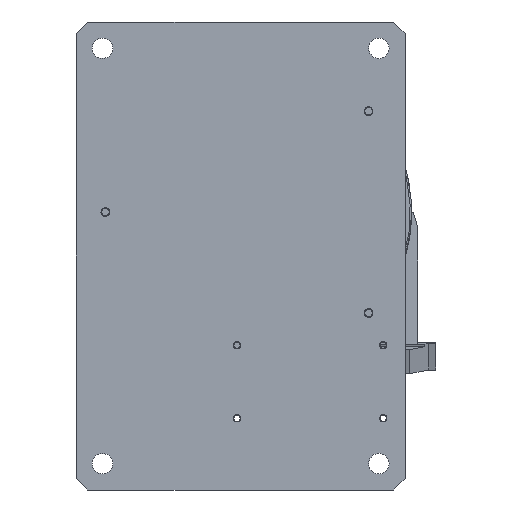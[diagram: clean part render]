
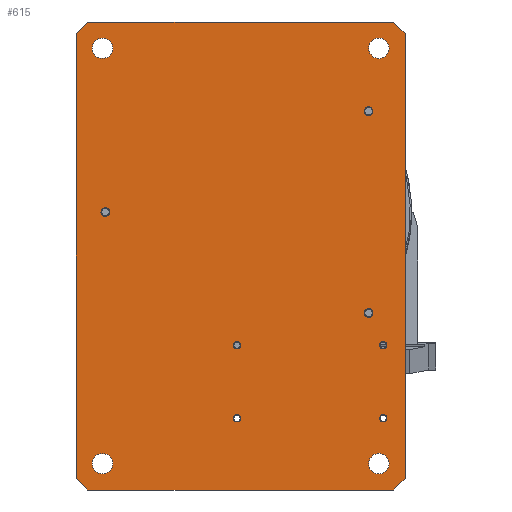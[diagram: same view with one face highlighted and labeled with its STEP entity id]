
A CAD part, front view. The second image highlights one B-rep face of the part: STEP entity #615.
In plain terms, the highlighted planar face has unit normal (0, -1, 0).
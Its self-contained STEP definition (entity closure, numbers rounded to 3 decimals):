
#2=CARTESIAN_POINT('',(-2.5,0.,-61.));
#3=DIRECTION('',(0.,1.,0.));
#4=DIRECTION('',(1.,0.,0.));
#5=AXIS2_PLACEMENT_3D('',#2,#3,#4);
#7=CARTESIAN_POINT('',(-2.5,0.,-61.));
#8=DIRECTION('',(0.,1.,0.));
#9=DIRECTION('',(-1.,0.,0.));
#10=AXIS2_PLACEMENT_3D('',#7,#8,#9);
#12=CARTESIAN_POINT('',(97.5,0.,-61.));
#13=DIRECTION('',(0.,1.,0.));
#14=DIRECTION('',(1.,0.,0.));
#15=AXIS2_PLACEMENT_3D('',#12,#13,#14);
#17=CARTESIAN_POINT('',(97.5,0.,-61.));
#18=DIRECTION('',(0.,1.,0.));
#19=DIRECTION('',(-1.,0.,0.));
#20=AXIS2_PLACEMENT_3D('',#17,#18,#19);
#22=CARTESIAN_POINT('',(-2.5,0.,-111.));
#23=DIRECTION('',(0.,1.,0.));
#24=DIRECTION('',(1.,0.,0.));
#25=AXIS2_PLACEMENT_3D('',#22,#23,#24);
#27=CARTESIAN_POINT('',(-2.5,0.,-111.));
#28=DIRECTION('',(0.,1.,0.));
#29=DIRECTION('',(-1.,0.,0.));
#30=AXIS2_PLACEMENT_3D('',#27,#28,#29);
#32=CARTESIAN_POINT('',(97.5,0.,-111.));
#33=DIRECTION('',(0.,1.,0.));
#34=DIRECTION('',(1.,0.,0.));
#35=AXIS2_PLACEMENT_3D('',#32,#33,#34);
#37=CARTESIAN_POINT('',(97.5,0.,-111.));
#38=DIRECTION('',(0.,1.,0.));
#39=DIRECTION('',(-1.,0.,0.));
#40=AXIS2_PLACEMENT_3D('',#37,#38,#39);
#42=CARTESIAN_POINT('',(-92.5,0.,30.));
#43=DIRECTION('',(0.,1.,0.));
#44=DIRECTION('',(1.,0.,0.));
#45=AXIS2_PLACEMENT_3D('',#42,#43,#44);
#47=CARTESIAN_POINT('',(-92.5,0.,30.));
#48=DIRECTION('',(0.,1.,0.));
#49=DIRECTION('',(-1.,0.,0.));
#50=AXIS2_PLACEMENT_3D('',#47,#48,#49);
#52=CARTESIAN_POINT('',(87.5,0.,99.));
#53=DIRECTION('',(0.,1.,0.));
#54=DIRECTION('',(1.,0.,0.));
#55=AXIS2_PLACEMENT_3D('',#52,#53,#54);
#57=CARTESIAN_POINT('',(87.5,0.,99.));
#58=DIRECTION('',(0.,1.,0.));
#59=DIRECTION('',(-1.,0.,0.));
#60=AXIS2_PLACEMENT_3D('',#57,#58,#59);
#62=CARTESIAN_POINT('',(87.5,0.,-39.));
#63=DIRECTION('',(0.,1.,0.));
#64=DIRECTION('',(1.,0.,0.));
#65=AXIS2_PLACEMENT_3D('',#62,#63,#64);
#67=CARTESIAN_POINT('',(87.5,0.,-39.));
#68=DIRECTION('',(0.,1.,0.));
#69=DIRECTION('',(-1.,0.,0.));
#70=AXIS2_PLACEMENT_3D('',#67,#68,#69);
#72=CARTESIAN_POINT('',(-94.5,0.,142.));
#73=DIRECTION('',(0.,1.,0.));
#74=DIRECTION('',(1.,0.,0.));
#75=AXIS2_PLACEMENT_3D('',#72,#73,#74);
#77=CARTESIAN_POINT('',(-94.5,0.,142.));
#78=DIRECTION('',(0.,1.,0.));
#79=DIRECTION('',(-1.,0.,0.));
#80=AXIS2_PLACEMENT_3D('',#77,#78,#79);
#82=CARTESIAN_POINT('',(94.5,0.,-142.));
#83=DIRECTION('',(0.,1.,0.));
#84=DIRECTION('',(1.,0.,0.));
#85=AXIS2_PLACEMENT_3D('',#82,#83,#84);
#87=CARTESIAN_POINT('',(94.5,0.,-142.));
#88=DIRECTION('',(0.,1.,0.));
#89=DIRECTION('',(-1.,0.,0.));
#90=AXIS2_PLACEMENT_3D('',#87,#88,#89);
#92=CARTESIAN_POINT('',(94.5,0.,142.));
#93=DIRECTION('',(0.,1.,0.));
#94=DIRECTION('',(1.,0.,0.));
#95=AXIS2_PLACEMENT_3D('',#92,#93,#94);
#97=CARTESIAN_POINT('',(94.5,0.,142.));
#98=DIRECTION('',(0.,1.,0.));
#99=DIRECTION('',(-1.,0.,0.));
#100=AXIS2_PLACEMENT_3D('',#97,#98,#99);
#102=CARTESIAN_POINT('',(-94.5,0.,-142.));
#103=DIRECTION('',(0.,1.,0.));
#104=DIRECTION('',(1.,0.,0.));
#105=AXIS2_PLACEMENT_3D('',#102,#103,#104);
#107=CARTESIAN_POINT('',(-94.5,0.,-142.));
#108=DIRECTION('',(0.,1.,0.));
#109=DIRECTION('',(-1.,0.,0.));
#110=AXIS2_PLACEMENT_3D('',#107,#108,#109);
#112=DIRECTION('',(-0.707,0.,-0.707));
#113=VECTOR('',#112,11.314);
#114=CARTESIAN_POINT('',(-104.5,0.,160.));
#115=LINE('',#114,#113);
#116=DIRECTION('',(1.,0.,0.));
#117=VECTOR('',#116,209.);
#118=CARTESIAN_POINT('',(-104.5,0.,160.));
#119=LINE('',#118,#117);
#120=DIRECTION('',(-0.707,0.,0.707));
#121=VECTOR('',#120,11.314);
#122=CARTESIAN_POINT('',(112.5,0.,152.));
#123=LINE('',#122,#121);
#124=DIRECTION('',(0.,0.,-1.));
#125=VECTOR('',#124,304.);
#126=CARTESIAN_POINT('',(112.5,0.,152.));
#127=LINE('',#126,#125);
#128=DIRECTION('',(0.707,0.,0.707));
#129=VECTOR('',#128,11.314);
#130=CARTESIAN_POINT('',(104.5,0.,-160.));
#131=LINE('',#130,#129);
#132=DIRECTION('',(-1.,0.,0.));
#133=VECTOR('',#132,209.);
#134=CARTESIAN_POINT('',(104.5,0.,-160.));
#135=LINE('',#134,#133);
#136=DIRECTION('',(0.707,0.,-0.707));
#137=VECTOR('',#136,11.314);
#138=CARTESIAN_POINT('',(-112.5,0.,-152.));
#139=LINE('',#138,#137);
#140=DIRECTION('',(0.,0.,1.));
#141=VECTOR('',#140,304.);
#142=CARTESIAN_POINT('',(-112.5,0.,-152.));
#143=LINE('',#142,#141);
#406=CARTESIAN_POINT('',(-104.5,0.,160.));
#407=CARTESIAN_POINT('',(-112.5,0.,152.));
#408=VERTEX_POINT('',#406);
#409=VERTEX_POINT('',#407);
#414=CARTESIAN_POINT('',(112.5,0.,152.));
#415=CARTESIAN_POINT('',(104.5,0.,160.));
#416=VERTEX_POINT('',#414);
#417=VERTEX_POINT('',#415);
#422=CARTESIAN_POINT('',(104.5,0.,-160.));
#423=CARTESIAN_POINT('',(112.5,0.,-152.));
#424=VERTEX_POINT('',#422);
#425=VERTEX_POINT('',#423);
#430=CARTESIAN_POINT('',(-112.5,0.,-152.));
#431=CARTESIAN_POINT('',(-104.5,0.,-160.));
#432=VERTEX_POINT('',#430);
#433=VERTEX_POINT('',#431);
#438=CARTESIAN_POINT('',(-0.35,0.,-61.));
#439=CARTESIAN_POINT('',(-4.65,0.,-61.));
#440=VERTEX_POINT('',#438);
#441=VERTEX_POINT('',#439);
#442=CARTESIAN_POINT('',(99.65,0.,-61.));
#443=CARTESIAN_POINT('',(95.35,0.,-61.));
#444=VERTEX_POINT('',#442);
#445=VERTEX_POINT('',#443);
#446=CARTESIAN_POINT('',(-0.35,0.,-111.));
#447=CARTESIAN_POINT('',(-4.65,0.,-111.));
#448=VERTEX_POINT('',#446);
#449=VERTEX_POINT('',#447);
#450=CARTESIAN_POINT('',(99.65,0.,-111.));
#451=CARTESIAN_POINT('',(95.35,0.,-111.));
#452=VERTEX_POINT('',#450);
#453=VERTEX_POINT('',#451);
#470=CARTESIAN_POINT('',(-89.95,0.,30.));
#471=CARTESIAN_POINT('',(-95.05,0.,30.));
#472=VERTEX_POINT('',#470);
#473=VERTEX_POINT('',#471);
#474=CARTESIAN_POINT('',(90.05,0.,99.));
#475=CARTESIAN_POINT('',(84.95,0.,99.));
#476=VERTEX_POINT('',#474);
#477=VERTEX_POINT('',#475);
#478=CARTESIAN_POINT('',(90.05,0.,-39.));
#479=CARTESIAN_POINT('',(84.95,0.,-39.));
#480=VERTEX_POINT('',#478);
#481=VERTEX_POINT('',#479);
#494=CARTESIAN_POINT('',(-87.5,0.,142.));
#495=CARTESIAN_POINT('',(-101.5,0.,142.));
#496=VERTEX_POINT('',#494);
#497=VERTEX_POINT('',#495);
#498=CARTESIAN_POINT('',(101.5,0.,-142.));
#499=CARTESIAN_POINT('',(87.5,0.,-142.));
#500=VERTEX_POINT('',#498);
#501=VERTEX_POINT('',#499);
#502=CARTESIAN_POINT('',(101.5,0.,142.));
#503=CARTESIAN_POINT('',(87.5,0.,142.));
#504=VERTEX_POINT('',#502);
#505=VERTEX_POINT('',#503);
#518=CARTESIAN_POINT('',(-87.5,0.,-142.));
#519=CARTESIAN_POINT('',(-101.5,0.,-142.));
#520=VERTEX_POINT('',#518);
#521=VERTEX_POINT('',#519);
#526=CARTESIAN_POINT('',(0.,0.,0.));
#527=DIRECTION('',(0.,1.,0.));
#528=DIRECTION('',(1.,0.,0.));
#529=AXIS2_PLACEMENT_3D('',#526,#527,#528);
#530=PLANE('',#529);
#532=ORIENTED_EDGE('',*,*,#531,.F.);
#534=ORIENTED_EDGE('',*,*,#533,.T.);
#536=ORIENTED_EDGE('',*,*,#535,.F.);
#538=ORIENTED_EDGE('',*,*,#537,.T.);
#540=ORIENTED_EDGE('',*,*,#539,.F.);
#542=ORIENTED_EDGE('',*,*,#541,.T.);
#544=ORIENTED_EDGE('',*,*,#543,.F.);
#546=ORIENTED_EDGE('',*,*,#545,.T.);
#547=EDGE_LOOP('',(#532,#534,#536,#538,#540,#542,#544,#546));
#548=FACE_OUTER_BOUND('',#547,.F.);
#550=ORIENTED_EDGE('',*,*,#549,.F.);
#552=ORIENTED_EDGE('',*,*,#551,.F.);
#553=EDGE_LOOP('',(#550,#552));
#554=FACE_BOUND('',#553,.F.);
#556=ORIENTED_EDGE('',*,*,#555,.F.);
#558=ORIENTED_EDGE('',*,*,#557,.F.);
#559=EDGE_LOOP('',(#556,#558));
#560=FACE_BOUND('',#559,.F.);
#562=ORIENTED_EDGE('',*,*,#561,.F.);
#564=ORIENTED_EDGE('',*,*,#563,.F.);
#565=EDGE_LOOP('',(#562,#564));
#566=FACE_BOUND('',#565,.F.);
#568=ORIENTED_EDGE('',*,*,#567,.F.);
#570=ORIENTED_EDGE('',*,*,#569,.F.);
#571=EDGE_LOOP('',(#568,#570));
#572=FACE_BOUND('',#571,.F.);
#574=ORIENTED_EDGE('',*,*,#573,.F.);
#576=ORIENTED_EDGE('',*,*,#575,.F.);
#577=EDGE_LOOP('',(#574,#576));
#578=FACE_BOUND('',#577,.F.);
#580=ORIENTED_EDGE('',*,*,#579,.F.);
#582=ORIENTED_EDGE('',*,*,#581,.F.);
#583=EDGE_LOOP('',(#580,#582));
#584=FACE_BOUND('',#583,.F.);
#586=ORIENTED_EDGE('',*,*,#585,.F.);
#588=ORIENTED_EDGE('',*,*,#587,.F.);
#589=EDGE_LOOP('',(#586,#588));
#590=FACE_BOUND('',#589,.F.);
#592=ORIENTED_EDGE('',*,*,#591,.F.);
#594=ORIENTED_EDGE('',*,*,#593,.F.);
#595=EDGE_LOOP('',(#592,#594));
#596=FACE_BOUND('',#595,.F.);
#598=ORIENTED_EDGE('',*,*,#597,.F.);
#600=ORIENTED_EDGE('',*,*,#599,.F.);
#601=EDGE_LOOP('',(#598,#600));
#602=FACE_BOUND('',#601,.F.);
#604=ORIENTED_EDGE('',*,*,#603,.F.);
#606=ORIENTED_EDGE('',*,*,#605,.F.);
#607=EDGE_LOOP('',(#604,#606));
#608=FACE_BOUND('',#607,.F.);
#610=ORIENTED_EDGE('',*,*,#609,.F.);
#612=ORIENTED_EDGE('',*,*,#611,.F.);
#613=EDGE_LOOP('',(#610,#612));
#614=FACE_BOUND('',#613,.F.);
#615=ADVANCED_FACE('',(#548,#554,#560,#566,#572,#578,#584,#590,#596,#602,#608,
#614),#530,.F.);
#6=CIRCLE('',#5,2.15);
#11=CIRCLE('',#10,2.15);
#16=CIRCLE('',#15,2.15);
#21=CIRCLE('',#20,2.15);
#26=CIRCLE('',#25,2.15);
#31=CIRCLE('',#30,2.15);
#36=CIRCLE('',#35,2.15);
#41=CIRCLE('',#40,2.15);
#46=CIRCLE('',#45,2.55);
#51=CIRCLE('',#50,2.55);
#56=CIRCLE('',#55,2.55);
#61=CIRCLE('',#60,2.55);
#66=CIRCLE('',#65,2.55);
#71=CIRCLE('',#70,2.55);
#76=CIRCLE('',#75,7.);
#81=CIRCLE('',#80,7.);
#86=CIRCLE('',#85,7.);
#91=CIRCLE('',#90,7.);
#96=CIRCLE('',#95,7.);
#101=CIRCLE('',#100,7.);
#106=CIRCLE('',#105,7.);
#111=CIRCLE('',#110,7.);
#531=EDGE_CURVE('',#408,#409,#115,.T.);
#533=EDGE_CURVE('',#408,#417,#119,.T.);
#535=EDGE_CURVE('',#416,#417,#123,.T.);
#537=EDGE_CURVE('',#416,#425,#127,.T.);
#539=EDGE_CURVE('',#424,#425,#131,.T.);
#541=EDGE_CURVE('',#424,#433,#135,.T.);
#543=EDGE_CURVE('',#432,#433,#139,.T.);
#545=EDGE_CURVE('',#432,#409,#143,.T.);
#549=EDGE_CURVE('',#444,#445,#16,.T.);
#551=EDGE_CURVE('',#445,#444,#21,.T.);
#555=EDGE_CURVE('',#448,#449,#26,.T.);
#557=EDGE_CURVE('',#449,#448,#31,.T.);
#561=EDGE_CURVE('',#452,#453,#36,.T.);
#563=EDGE_CURVE('',#453,#452,#41,.T.);
#567=EDGE_CURVE('',#472,#473,#46,.T.);
#569=EDGE_CURVE('',#473,#472,#51,.T.);
#573=EDGE_CURVE('',#476,#477,#56,.T.);
#575=EDGE_CURVE('',#477,#476,#61,.T.);
#579=EDGE_CURVE('',#480,#481,#66,.T.);
#581=EDGE_CURVE('',#481,#480,#71,.T.);
#585=EDGE_CURVE('',#496,#497,#76,.T.);
#587=EDGE_CURVE('',#497,#496,#81,.T.);
#591=EDGE_CURVE('',#500,#501,#86,.T.);
#593=EDGE_CURVE('',#501,#500,#91,.T.);
#597=EDGE_CURVE('',#504,#505,#96,.T.);
#599=EDGE_CURVE('',#505,#504,#101,.T.);
#603=EDGE_CURVE('',#520,#521,#106,.T.);
#605=EDGE_CURVE('',#521,#520,#111,.T.);
#609=EDGE_CURVE('',#440,#441,#6,.T.);
#611=EDGE_CURVE('',#441,#440,#11,.T.);
